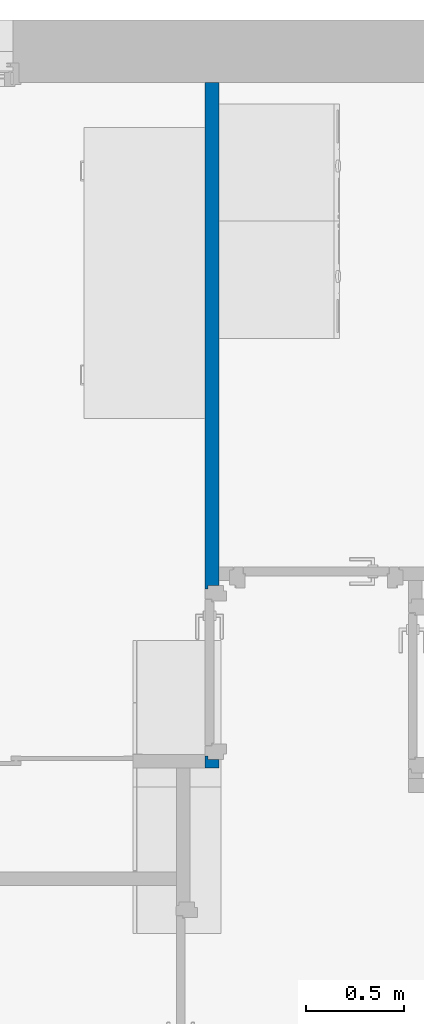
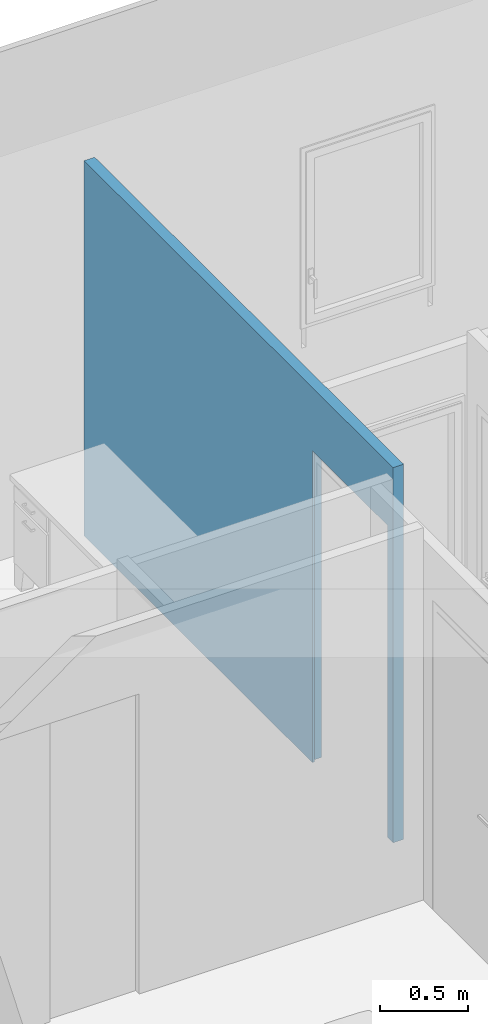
# One storey, part 36 of 61: 1 wall, 1 opening.
"""IFC2X3 building model written with IfcOpenShell, lengths in metres."""

import ifcopenshell
import ifcopenshell.guid

model = None  # the IFC model being written
_history = None  # IfcOwnerHistory: only IFC2X3 demands one
_inside = {}  # id of a spatial element -> (the spatial element, [elements in it])
_under = {}  # id of a project, library or spatial element -> (it, [spatial elements below it])
_declared = {}  # id of a project -> (the project, [libraries it declares])
_typed = {}  # id of a type object -> (the type object, [elements of that type])
_made_of = {}  # id of a material, layer set ... -> (it, [elements and type objects made of it])


def new_model(schema):
    """Start an empty IFC model of exactly this schema.

    Asked for "IFC4X3", IfcOpenShell would pick the latest addendum, in which some entities
    have other attributes; the version numbers below select the first issue.
    IFC2X3 requires an IfcOwnerHistory on every rooted entity: one is made here for all.
    """
    global model, _history
    if schema == "IFC4X3":
        model = ifcopenshell.file(schema_version=(4, 3, 0, 0))
    else:
        model = ifcopenshell.file(schema=schema)
    _inside.clear()
    _under.clear()
    _declared.clear()
    _typed.clear()
    _made_of.clear()
    _history = None
    if model.schema == "IFC2X3":
        org = make("IfcOrganization", Name="unknown")
        user = make(
            "IfcPersonAndOrganization",
            ThePerson=make("IfcPerson", FamilyName="unknown"),
            TheOrganization=org,
        )
        app = make(
            "IfcApplication",
            ApplicationDeveloper=org,
            Version="unknown",
            ApplicationFullName="unknown",
            ApplicationIdentifier="unknown",
        )
        _history = make(
            "IfcOwnerHistory",
            OwningUser=user,
            OwningApplication=app,
            ChangeAction="ADDED",
            CreationDate=0,
        )
    return model


def make(cls, **values):
    """One entity of the class cls with the attributes given. An attribute that is None is left unset."""
    return model.create_entity(
        cls, **{name: value for name, value in values.items() if value is not None}
    )


def entity(cls, *values):
    """Any entity or typed value of the class cls, its attributes in the order of the schema. None: left unset."""
    e = model.create_entity(cls)
    for i, value in enumerate(values):
        if value is not None:
            e[i] = value
    return e


def rooted(cls, **values):
    """An entity with a GlobalId (a new one), such as an element, a storey or a relation."""
    return make(cls, GlobalId=ifcopenshell.guid.new(), OwnerHistory=_history, **values)


def si_unit(unit_type, name, prefix=None):
    """IfcSIUnit, for example si_unit("LENGTHUNIT", "METRE", prefix="MILLI")."""
    return make("IfcSIUnit", UnitType=unit_type, Prefix=prefix, Name=name)


def converted_unit(unit_type, name, factor, base, dimensions=None, offset=None):
    """IfcConversionBasedUnit, such as the inch: factor (a typed value) times the base unit."""
    return make(
        "IfcConversionBasedUnit"
        if offset is None
        else "IfcConversionBasedUnitWithOffset",
        ConversionOffset=offset,
        Dimensions=None
        if dimensions is None
        else entity("IfcDimensionalExponents", *dimensions),
        UnitType=unit_type,
        Name=name,
        ConversionFactor=make(
            "IfcMeasureWithUnit", ValueComponent=factor, UnitComponent=base
        ),
    )


def derived_unit(unit_type, elements):
    """IfcDerivedUnit: a product of units, each with its exponent."""
    return make(
        "IfcDerivedUnit",
        Elements=[
            make("IfcDerivedUnitElement", Unit=unit, Exponent=power)
            for unit, power in elements
        ],
        UnitType=unit_type,
    )


def assignment(units):
    """IfcUnitAssignment: the units of a project."""
    return None if units is None else make("IfcUnitAssignment", Units=units)


def point(xyz):
    """IfcCartesianPoint."""
    return None if xyz is None else make("IfcCartesianPoint", Coordinates=xyz)


def direction(xyz):
    """IfcDirection."""
    return None if xyz is None else make("IfcDirection", DirectionRatios=xyz)


def frame(location, z_axis=None, x_axis=None):
    """IfcAxis2Placement3D, a coordinate frame: its origin and axes. An axis left out is left unset."""
    return make(
        "IfcAxis2Placement3D",
        Location=point(location),
        Axis=direction(z_axis),
        RefDirection=direction(x_axis),
    )


def frame_2d(location, x_axis=None):
    """IfcAxis2Placement2D, a coordinate frame in the plane: its origin and x axis."""
    return make(
        "IfcAxis2Placement2D", Location=point(location), RefDirection=direction(x_axis)
    )


def origin():
    """The frame at (0, 0, 0) with its axes left unset."""
    return frame((0.0, 0.0, 0.0))


def place(relative_to, where):
    """IfcLocalPlacement: puts the frame where relative to a parent placement (None: the world)."""
    return make(
        "IfcLocalPlacement", PlacementRelTo=relative_to, RelativePlacement=where
    )


def context(
    kind, dimensions, precision=None, world=None, true_north=None, identifier=None
):
    """IfcGeometricRepresentationContext, for example the 3D "Model" context."""
    return make(
        "IfcGeometricRepresentationContext",
        ContextIdentifier=identifier,
        ContextType=kind,
        CoordinateSpaceDimension=dimensions,
        Precision=precision,
        WorldCoordinateSystem=world,
        TrueNorth=true_north,
    )


def subcontext(parent, identifier, kind, view, scale=None):
    """IfcGeometricRepresentationSubContext, for example "Body" below "Model"."""
    return make(
        "IfcGeometricRepresentationSubContext",
        ContextIdentifier=identifier,
        ContextType=kind,
        ParentContext=parent,
        TargetScale=scale,
        TargetView=view,
    )


def project(units=None, contexts=None):
    """IfcProject with its units and contexts."""
    return rooted(
        "IfcProject",
        Name="project",
        RepresentationContexts=contexts,
        UnitsInContext=assignment(units),
    )


def spatial(cls, under=None, at=None, **own):
    """A site, building, storey or space (cls), placed at a placement, below another one or the project."""
    s = rooted(cls, ObjectPlacement=at, **own)
    if under is not None:
        _under.setdefault(under.id(), (under, []))[1].append(s)
    return s


def profile(cls, at=None, kind="AREA", **sizes):
    """A parametric profile (cls). Its sizes go by their IFC names, for example OverallWidth=200.0."""
    return make(cls, ProfileType=kind, Position=at, **sizes)


def rectangle(**sizes):
    """IfcRectangleProfileDef."""
    return profile("IfcRectangleProfileDef", **sizes)


def extrude(swept, where, along, depth):
    """IfcExtrudedAreaSolid: the profile swept, set in the frame where, extruded along a direction by depth."""
    return make(
        "IfcExtrudedAreaSolid",
        SweptArea=swept,
        Position=where,
        ExtrudedDirection=direction(along),
        Depth=depth,
    )


def faces_of(points, faces, orient=None, outer=None):
    """IfcFace entities. A face is a list of loops; a loop is a list of indices into points, from 0.

    orient and outer hold one flag for each loop. By default every Orientation is true, the
    first loop of a face is its IfcFaceOuterBound and the others are IfcFaceBound.
    """
    made = []
    for i, loops in enumerate(faces):
        bounds = []
        for j, loop in enumerate(loops):
            is_outer = j == 0 if outer is None else outer[i][j]
            bounds.append(
                make(
                    "IfcFaceOuterBound" if is_outer else "IfcFaceBound",
                    Bound=make("IfcPolyLoop", Polygon=[points[k] for k in loop]),
                    Orientation=True if orient is None else orient[i][j],
                )
            )
        made.append(make("IfcFace", Bounds=bounds))
    return made


def faceted_brep(points, faces, orient=None, outer=None, voids=None):
    """IfcFacetedBrep: a solid bounded by flat faces; with voids (closed shells), ...WithVoids."""
    shared = [point(p) for p in points]
    hull = make("IfcClosedShell", CfsFaces=faces_of(shared, faces, orient, outer))
    if voids is None:
        return make("IfcFacetedBrep", Outer=hull)
    return make(
        "IfcFacetedBrepWithVoids",
        Outer=hull,
        Voids=[
            make(cls, CfsFaces=faces_of(shared, fs, o, b)) for cls, fs, o, b in voids
        ],
    )


def shape(context_of_items, identifier, shape_type, items):
    """IfcShapeRepresentation: the items that make up one representation, for example the "Body"."""
    return make(
        "IfcShapeRepresentation",
        ContextOfItems=context_of_items,
        RepresentationIdentifier=identifier,
        RepresentationType=shape_type,
        Items=items,
    )


def material(Name=None, Category=None):
    """IfcMaterial."""
    return make("IfcMaterial", Name=Name, Category=Category)


def layer(
    of_material, thickness, ventilated=None, Name=None, Category=None, Priority=None
):
    """IfcMaterialLayer: one layer of a wall or slab, of a material (None: an air gap)."""
    return make(
        "IfcMaterialLayer",
        Material=of_material,
        LayerThickness=thickness,
        IsVentilated=ventilated,
        Name=Name,
        Category=Category,
        Priority=Priority,
    )


def layer_set(layers, Name=None):
    """IfcMaterialLayerSet."""
    return make("IfcMaterialLayerSet", MaterialLayers=layers, LayerSetName=Name)


def layer_usage(for_layer_set, set_direction, sense, offset, extent=None):
    """IfcMaterialLayerSetUsage: how a layer set lies in its element."""
    return make(
        "IfcMaterialLayerSetUsage",
        ForLayerSet=for_layer_set,
        LayerSetDirection=set_direction,
        DirectionSense=sense,
        OffsetFromReferenceLine=offset,
        ReferenceExtent=extent,
    )


def made_of(thing, what):
    """Note that an element or type object is made of a material, layer set ...; save() writes the relation."""
    if what is not None:
        _made_of.setdefault(what.id(), (what, []))[1].append(thing)
    return thing


def type_object(cls, material=None, **own):
    """A type object (cls), such as IfcWallType, which elements share."""
    return made_of(rooted(cls, **own), material)


def element(
    cls,
    number,
    at=None,
    inside=None,
    cuts=None,
    type_object=None,
    material=None,
    context=None,
    identifier="Body",
    shape_type=None,
    held_by="IfcProductDefinitionShape",
    body=None,
    shapes=None,
    **own,
):
    """One element of the class cls, such as IfcWall. Its Tag is "e" and its number.

    at: its placement. inside: the storey or other place that contains it. cuts: it is an
    opening in that element (IfcRelVoidsElement). A single representation is given by context,
    identifier, shape_type and body (its items); several are given by shapes. held_by: the class
    of the entity that holds the representations. save() writes the other relations.
    """
    e = rooted(cls, Tag="e%d" % number, ObjectPlacement=at, **own)
    if body is not None:
        shapes = [shape(context, identifier, shape_type, body)]
    if shapes is not None:
        e.Representation = make(held_by, Representations=shapes)
    if inside is not None:
        _inside.setdefault(inside.id(), (inside, []))[1].append(e)
    if cuts is not None:
        rooted(
            "IfcRelVoidsElement", RelatingBuildingElement=cuts, RelatedOpeningElement=e
        )
    if type_object is not None:
        _typed.setdefault(type_object.id(), (type_object, []))[1].append(e)
    return made_of(e, material)


def aggregate(whole, parts):
    """IfcRelAggregates: a whole, such as a stair, and the parts it consists of."""
    return rooted("IfcRelAggregates", RelatingObject=whole, RelatedObjects=parts)


def save(model, path):
    """Write the relations noted so far, then the file.

    IfcRelAggregates (storeys below a building ...), IfcRelContainedInSpatialStructure (elements
    in a storey), IfcRelDefinesByType, IfcRelAssociatesMaterial and IfcRelDeclares: one each for
    every whole, place, type object, material and project.
    """
    for whole, parts in _under.values():
        aggregate(whole, parts)
    for where, things in _inside.values():
        rooted(
            "IfcRelContainedInSpatialStructure",
            RelatedElements=things,
            RelatingStructure=where,
        )
    for kind, things in _typed.values():
        rooted("IfcRelDefinesByType", RelatedObjects=things, RelatingType=kind)
    for what, things in _made_of.values():
        rooted("IfcRelAssociatesMaterial", RelatedObjects=things, RelatingMaterial=what)
    for by, libraries in _declared.values():
        rooted("IfcRelDeclares", RelatingContext=by, RelatedDefinitions=libraries)
    model.write(path)


model = new_model("IFC2X3")

# Units and contexts
model_context = context("Model", 3, precision=1e-05, world=origin(), true_north=direction((6.12303176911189e-17, 1.0)))
body_context = subcontext(model_context, "Body", "Model", "MODEL_VIEW")
ifc_project = project(units=[si_unit("LENGTHUNIT", "METRE"), si_unit("AREAUNIT", "SQUARE_METRE"), si_unit("VOLUMEUNIT", "CUBIC_METRE"), converted_unit("PLANEANGLEUNIT", "DEGREE", entity("IfcRatioMeasure", 0.0174532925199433), si_unit("PLANEANGLEUNIT", "RADIAN"), dimensions=[0, 0, 0, 0, 0, 0, 0]), si_unit("MASSUNIT", "GRAM", prefix="KILO"), derived_unit("MASSDENSITYUNIT", [(si_unit("MASSUNIT", "GRAM", prefix="KILO"), 1), (si_unit("LENGTHUNIT", "METRE"), -3)]), si_unit("TIMEUNIT", "SECOND"), si_unit("FREQUENCYUNIT", "HERTZ"), si_unit("THERMODYNAMICTEMPERATUREUNIT", "DEGREE_CELSIUS"), derived_unit("THERMALTRANSMITTANCEUNIT", [(si_unit("MASSUNIT", "GRAM", prefix="KILO"), 1), (si_unit("THERMODYNAMICTEMPERATUREUNIT", "KELVIN"), -1), (si_unit("TIMEUNIT", "SECOND"), -3)]), derived_unit("VOLUMETRICFLOWRATEUNIT", [(si_unit("LENGTHUNIT", "METRE"), 3), (si_unit("TIMEUNIT", "SECOND"), -1)]), si_unit("ELECTRICCURRENTUNIT", "AMPERE"), si_unit("ELECTRICVOLTAGEUNIT", "VOLT"), si_unit("POWERUNIT", "WATT"), si_unit("FORCEUNIT", "NEWTON", prefix="KILO"), si_unit("ILLUMINANCEUNIT", "LUX"), si_unit("LUMINOUSFLUXUNIT", "LUMEN"), si_unit("LUMINOUSINTENSITYUNIT", "CANDELA"), derived_unit("USERDEFINED", [(si_unit("MASSUNIT", "GRAM", prefix="KILO"), -1), (si_unit("LENGTHUNIT", "METRE"), -2), (si_unit("TIMEUNIT", "SECOND"), 3), (si_unit("LUMINOUSFLUXUNIT", "LUMEN"), 1)]), derived_unit("LINEARVELOCITYUNIT", [(si_unit("LENGTHUNIT", "METRE"), 1), (si_unit("TIMEUNIT", "SECOND"), -1)]), si_unit("PRESSUREUNIT", "PASCAL"), derived_unit("USERDEFINED", [(si_unit("LENGTHUNIT", "METRE"), -2), (si_unit("MASSUNIT", "GRAM", prefix="KILO"), 1), (si_unit("TIMEUNIT", "SECOND"), -2)])], contexts=[model_context])

# Site, building, storey
site_placement = place(None, origin())
site = spatial("IfcSite", under=ifc_project, at=site_placement, Name="Surface", CompositionType="ELEMENT")
building_placement = place(site_placement, origin())
building = spatial("IfcBuilding", under=site, at=building_placement, CompositionType="ELEMENT")
storey_placement = place(building_placement, frame((0.0, 0.0, 2.82)))
storey = spatial("IfcBuildingStorey", under=building, at=storey_placement, Name="ETAGE", CompositionType="ELEMENT", Elevation=2.82)

# Wall, opening
ifc_material = material(Name="Peinture - Blanc")
ifc_layer = layer(ifc_material, 0.07)
ifc_layer_set = layer_set([ifc_layer], Name="Mur de base:Int.  Platre 70 mm en blanc")
ifc_layer_usage = layer_usage(ifc_layer_set, "AXIS2", "POSITIVE", -0.035)
wall_type = type_object("IfcWallType", Name="Mur de base:Int.  Platre 70 mm en blanc", PredefinedType="STANDARD", material=ifc_layer_set)
wall_placement = place(storey_placement, frame((79.9439023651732, 92.1475239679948, 0.0), z_axis=(0.0, 0.0, 1.0), x_axis=(0.0, -1.0, 0.0)))
wall = element("IfcWallStandardCase", 1, at=wall_placement, inside=storey, type_object=wall_type, material=ifc_layer_usage, Name="Mur de base:Int.  Platre 70 mm en blanc", ObjectType="Mur de base:Int.  Platre 70 mm en blanc", context=body_context, shape_type="SweptSolid", body=[
    extrude(rectangle(XDim=3.50999999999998, YDim=0.0699999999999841, at=frame_2d((1.75499999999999, 0.0), x_axis=(-1.0, 0.0))), origin(), (0.0, 0.0, 1.0), 2.6),
])
opening_placement = place(wall_placement, frame((3.46500000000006, -0.214999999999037, 0.0), z_axis=(0.0, 0.0, 1.0), x_axis=(0.0, 1.0, 0.0)))
element("IfcOpeningElement", 2, at=opening_placement, cuts=wall, Name="Mur de base:Int.  Platre 70 mm en blanc", ObjectType="Opening", context=body_context, shape_type="Brep", body=[
    faceted_brep([(0.0, 0.0799999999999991, 2.09999999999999), (0.0, 0.810000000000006, 2.09999999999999), (0.0, 0.810000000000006, 0.0), (0.0, 0.0799999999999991, 0.0), (0.893399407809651, 0.0799999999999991, 2.09999999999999), (0.893399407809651, 0.0799999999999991, 0.0), (0.893399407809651, 0.810000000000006, 0.0), (0.893399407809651, 0.810000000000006, 2.09999999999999), (0.179999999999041, 0.0799999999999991, 0.0), (0.179999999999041, 0.0799999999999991, 2.09999999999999), (0.179999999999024, 0.810000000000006, 0.0), (0.179999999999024, 0.871999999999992, 0.0), (0.194999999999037, 0.871999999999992, 0.0), (0.194999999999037, 0.890000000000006, 0.0), (0.272999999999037, 0.890000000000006, 0.0), (0.272999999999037, 0.860999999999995, 0.0), (0.249999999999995, 0.860999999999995, 0.0), (0.249999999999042, 0.809999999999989, 0.0), (0.249999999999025, 0.0799999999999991, 0.0), (0.249999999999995, 0.0290000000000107, 0.0), (0.272999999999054, 0.0290000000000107, 0.0), (0.272999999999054, 0.0, 0.0), (0.194999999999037, 0.0, 0.0), (0.194999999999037, 0.0180000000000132, 0.0), (0.179999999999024, 0.0180000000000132, 0.0), (0.179999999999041, 0.809999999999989, 2.09999999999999), (0.249999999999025, 0.0799999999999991, 2.09999999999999), (0.250000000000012, 0.0690000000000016, 2.09999999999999), (0.249999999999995, 0.0690000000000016, 2.11099999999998), (0.249999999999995, 0.820999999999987, 2.11099999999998), (0.249999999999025, 0.820999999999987, 2.09999999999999), (0.249999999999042, 0.809999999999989, 2.09999999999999), (0.249999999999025, 0.860999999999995, 2.15099999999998), (0.249999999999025, 0.0290000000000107, 2.15099999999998), (0.179999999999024, 0.0179999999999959, 2.16199999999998), (0.179999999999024, 0.871999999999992, 2.16199999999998), (0.250499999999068, 0.0690000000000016, 2.09999999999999), (0.250499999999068, 0.0690000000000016, 2.11099999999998), (0.250499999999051, 0.820999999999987, 2.11099999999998), (0.250499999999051, 0.820999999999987, 2.09999999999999), (0.250499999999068, 0.0799999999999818, 2.09999999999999), (0.250499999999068, 0.809999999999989, 2.09999999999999), (0.194999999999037, 0.0179999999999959, 2.16199999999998), (0.194999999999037, 0.0, 2.17999999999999), (0.194999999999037, 0.889999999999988, 2.17999999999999), (0.194999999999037, 0.871999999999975, 2.16199999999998), (0.272999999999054, 0.0, 2.17999999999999), (0.272999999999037, 0.0290000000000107, 2.15099999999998), (0.272999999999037, 0.860999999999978, 2.15099999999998), (0.272999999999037, 0.889999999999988, 2.17999999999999)], [[[0, 1, 2, 3]], [[4, 5, 6, 7]], [[0, 3, 8, 9]], [[3, 2, 10, 11, 12, 13, 14, 15, 16, 17, 6, 5, 18, 19, 20, 21, 22, 23, 24, 8]], [[2, 1, 25, 10]], [[1, 0, 9, 25]], [[19, 18, 26, 27, 28, 29, 30, 31, 17, 16, 32, 33]], [[8, 24, 34, 35, 11, 10, 25, 9]], [[36, 37, 28, 27]], [[38, 39, 30, 29]], [[37, 38, 29, 28]], [[39, 38, 37, 36, 40, 41]], [[40, 36, 27, 26]], [[24, 23, 42, 34]], [[23, 22, 43, 44, 13, 12, 45, 42]], [[22, 21, 46, 43]], [[21, 20, 47, 48, 15, 14, 49, 46]], [[20, 19, 33, 47]], [[35, 34, 42, 45]], [[44, 43, 46, 49]], [[33, 32, 48, 47]], [[11, 35, 45, 12]], [[13, 44, 49, 14]], [[32, 16, 15, 48]], [[39, 41, 31, 30]], [[4, 7, 41, 40]], [[7, 6, 17, 31, 41]], [[5, 4, 40, 26, 18]]]),
])

save(model, "model.ifc")
